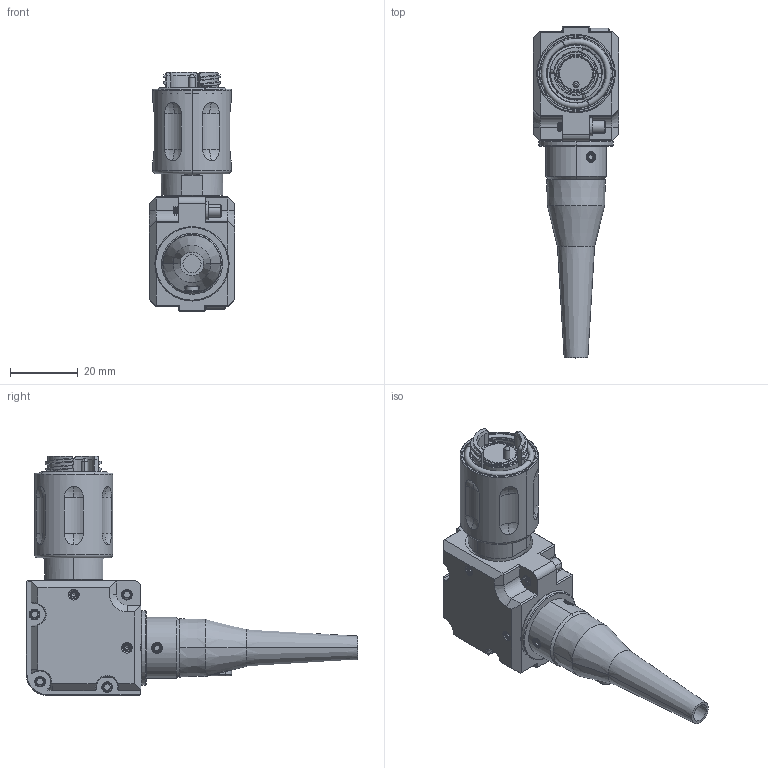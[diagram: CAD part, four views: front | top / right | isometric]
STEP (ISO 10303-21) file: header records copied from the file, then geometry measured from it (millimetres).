
FILE_DESCRIPTION (( 'STEP AP214' ), '1' );
FILE_NAME ('QMICRO90-PEXX-XXXX-SXX.STEP', '2025-05-02T23:39:50', ( '' ), ( '' ), 'SwSTEP 2.0', 'SolidWorks 2024', '' );
FILE_SCHEMA (( 'AUTOMOTIVE_DESIGN' ));
Length unit declared in the file: inch
Products named in the file (1): QMICRO90-PEXX-XXXX-SXX
Bounding box: 25.25 x 98.2 x 70.77 mm (x, y, z)
Volume: 38897 mm3; surface area: 17265.1 mm2
Topology: 11 solids, 16 shells, 1085 faces, 2745 edges, 1718 vertices
Faces by surface type: plane 341, cylinder 333, cone 243, bspline 115, torus 27, sphere 26
Entity records: 55967 total; most frequent: CARTESIAN_POINT 32116, ORIENTED_EDGE 5442, DIRECTION 4370, EDGE_CURVE 2721, VERTEX_POINT 1718, AXIS2_PLACEMENT_3D 1630, EDGE_LOOP 1149, LINE 1110
